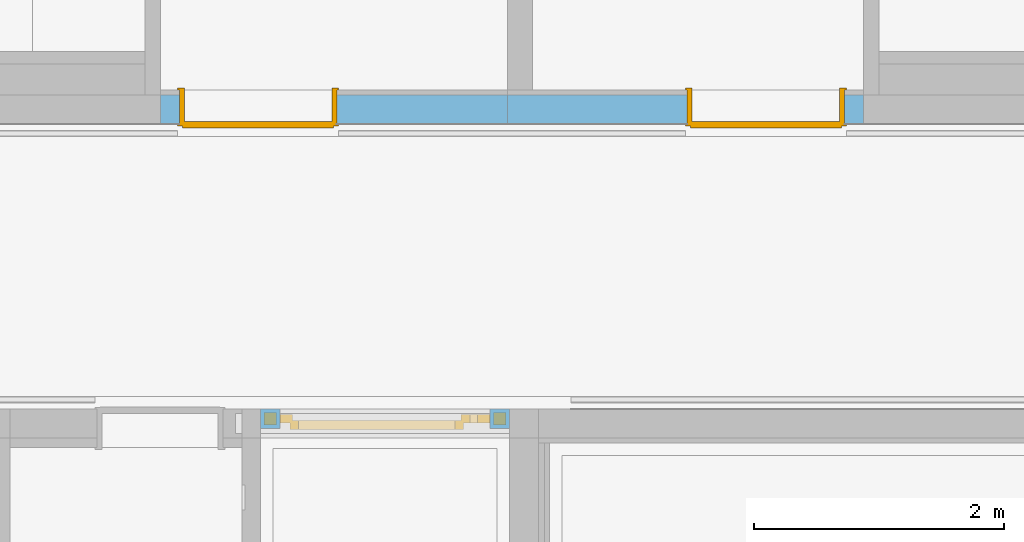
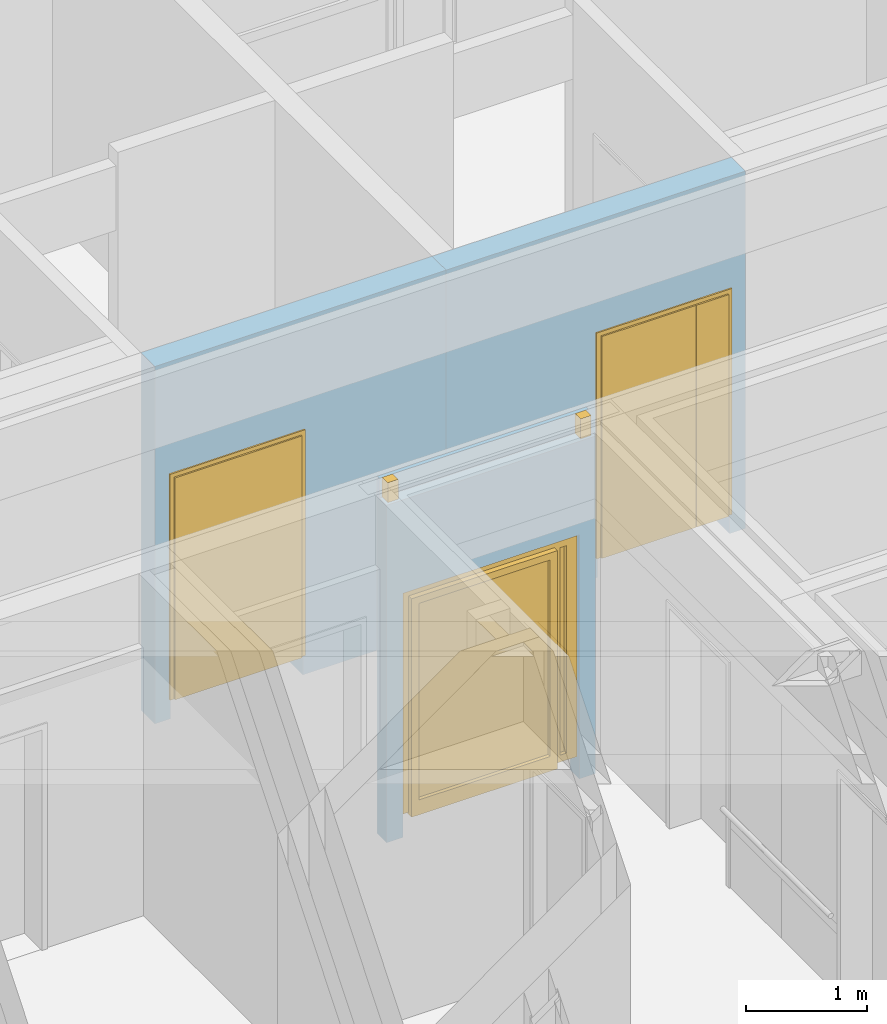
# One storey, part 81 of 207: 3 doors, 3 openings, plus 3 elements that do not belong to this part.
"""IFC4 building model written with IfcOpenShell, lengths in metres."""

from ifc_helpers import new_model, entity, si_unit, converted_unit, derived_unit, frame, frame_2d, origin, origin_with_axes, place, context, subcontext, project, spatial, polyline, rectangle, outline, extrude, clip, bounded_halfspace, closed_shell, open_shell, faceted_brep, surface_model, source, transform, mapped, material, type_object, element, fill, save


model = new_model("IFC4")

# Units and contexts
model_context = context("Model", 3, precision=1e-05, world=origin())
body_context = subcontext(model_context, "Body", "Model", "MODEL_VIEW")
ifc_project = project(units=[si_unit("LENGTHUNIT", "METRE"), si_unit("AREAUNIT", "SQUARE_METRE"), si_unit("VOLUMEUNIT", "CUBIC_METRE"), si_unit("MASSUNIT", "GRAM", prefix="KILO"), converted_unit("PLANEANGLEUNIT", "DEGREE", entity("IfcPlaneAngleMeasure", 0.0174532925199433), si_unit("PLANEANGLEUNIT", "RADIAN"), dimensions=[0, 0, 0, 0, 0, 0, 0]), derived_unit("THERMALTRANSMITTANCEUNIT", [(si_unit("POWERUNIT", "WATT"), 1), (si_unit("THERMODYNAMICTEMPERATUREUNIT", "KELVIN"), -1), (si_unit("LENGTHUNIT", "METRE"), -2)]), derived_unit("VOLUMETRICFLOWRATEUNIT", [(si_unit("LENGTHUNIT", "METRE"), 3), (converted_unit("TIMEUNIT", "hour", entity("IfcTimeMeasure", 3600.0), si_unit("TIMEUNIT", "SECOND"), dimensions=[0, 0, 1, 0, 0, 0, 0]), -1), (si_unit("LENGTHUNIT", "METRE"), -1)])], contexts=[model_context])

# Site, building, storey
site_placement = place(None, origin())
site = spatial("IfcSite", under=ifc_project, at=site_placement, Name="Psychiatrie Neubau Wunstorf", CompositionType="ELEMENT")
building_placement = place(site_placement, origin())
building = spatial("IfcBuilding", under=site, at=building_placement, Name="Neubau H2 Stationsgebäude", CompositionType="ELEMENT")
storey_placement = place(building_placement, frame((0.0, 0.0, -0.2)))
storey = spatial("IfcBuildingStorey", under=building, at=storey_placement, Name="H2 Ebene 0", CompositionType="ELEMENT", Elevation=-0.2)

# Wall, opening, door
ifc_material_1 = material(Name="WI-HW 60")
wall_1_placement = place(storey_placement, frame((9.9, 24.1175, 0.0), z_axis=(0.0, 0.0, 1.0), x_axis=(1.0, 2.55296758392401e-15, 0.0)))
wall_1 = element("IfcWall", 1, at=wall_1_placement, inside=storey, material=ifc_material_1, context=body_context, shape_type="SweptSolid", body=[
    extrude(rectangle(XDim=2.85, YDim=0.232, at=frame_2d((1.425, 0.116), x_axis=(1.0, 0.0))), origin_with_axes(), (0.0, 0.0, 1.0), 3.6),
])
opening_1_placement = place(wall_1_placement, frame((1.44, 0.0, 0.0), z_axis=(2.940176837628e-15, 1.0, 0.0), x_axis=(0.0, 0.0, 1.0)))
opening_1 = element("IfcOpeningElement", 2, at=opening_1_placement, cuts=wall_1, Name="Türöffnung", ObjectType="Opening", context=body_context, shape_type="SweptSolid", body=[
    extrude(outline(polyline([(2.46, 1.26), (2.46, 0.0), (0.0, 0.0), (0.0, 1.26), (2.46, 1.26)])), origin_with_axes(), (0.0, 0.0, 1.0), 0.232),
])
ifc_material_2 = material(Name="TI-2F-UZ-D")
door_type_1 = type_object("IfcDoorType", Name="SMT", OperationType="DOUBLE_DOOR_SINGLE_SWING", ParameterTakesPrecedence=False, PredefinedType="DOOR")
shared_shape_1 = source(origin_with_axes(), body_context, "Body", "Brep", [
    faceted_brep([(1.26, -0.015, 2.46), (1.26, -0.015, 0.2), (1.22, -0.015, 0.2), (1.22, -0.015, 2.46), (1.26, 0.287, 0.2), (1.26, 0.287, 2.46), (1.22, 0.287, 2.46), (1.22, 0.287, 0.2)], [[[0, 1, 2, 3]], [[4, 5, 6, 7]], [[1, 0, 5, 4]], [[2, 1, 4, 7]], [[3, 2, 7, 6]], [[0, 3, 6, 5]]], orient=[[False], [False], [False], [False], [False], [False]]),
    faceted_brep([(1.26, -0.015, 2.475), (1.275, -0.015, 2.475), (1.275, -0.015, 0.2), (1.26, -0.015, 0.2), (1.26, 0.0, 0.2), (1.275, 0.0, 0.2), (1.275, 0.0, 2.475), (1.26, 0.0, 2.475)], [[[0, 1, 2, 3]], [[4, 5, 6, 7]], [[3, 4, 7, 0]], [[2, 5, 4, 3]], [[1, 6, 5, 2]], [[0, 7, 6, 1]]], orient=[[False], [False], [False], [False], [False], [False]]),
    faceted_brep([(1.26, 0.272, 2.475), (1.275, 0.272, 2.475), (1.275, 0.272, 0.2), (1.26, 0.272, 0.2), (1.26, 0.287, 0.2), (1.275, 0.287, 0.2), (1.275, 0.287, 2.475), (1.26, 0.287, 2.475)], [[[0, 1, 2, 3]], [[4, 5, 6, 7]], [[3, 4, 7, 0]], [[2, 5, 4, 3]], [[1, 6, 5, 2]], [[0, 7, 6, 1]]], orient=[[False], [False], [False], [False], [False], [False]]),
    faceted_brep([(0.04, -0.0149999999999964, 2.46), (0.04, -0.0149999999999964, 0.2), (0.0, -0.0149999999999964, 0.2), (0.0, -0.0149999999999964, 2.46), (0.0400000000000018, 0.287000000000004, 0.2), (0.0400000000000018, 0.287000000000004, 2.46), (0.0, 0.287000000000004, 2.46), (0.0, 0.287000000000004, 0.2)], [[[0, 1, 2, 3]], [[4, 5, 6, 7]], [[1, 0, 5, 4]], [[2, 1, 4, 7]], [[3, 2, 7, 6]], [[0, 3, 6, 5]]], orient=[[False], [False], [False], [False], [False], [False]]),
    faceted_brep([(0.0, -0.0149999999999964, 2.475), (0.0, -0.0149999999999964, 0.2), (-0.015, -0.0149999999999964, 0.2), (-0.015, -0.0149999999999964, 2.475), (0.0, 0.0, 0.2), (0.0, 0.0, 2.475), (-0.015, 0.0, 2.475), (-0.015, 0.0, 0.2)], [[[0, 1, 2, 3]], [[4, 5, 6, 7]], [[1, 0, 5, 4]], [[2, 1, 4, 7]], [[3, 2, 7, 6]], [[0, 3, 6, 5]]], orient=[[False], [False], [False], [False], [False], [False]]),
    faceted_brep([(0.0, 0.272000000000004, 2.475), (0.0, 0.272000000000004, 0.2), (-0.0149999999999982, 0.272000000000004, 0.2), (-0.0149999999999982, 0.272000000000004, 2.475), (0.0, 0.287000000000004, 0.2), (0.0, 0.287000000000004, 2.475), (-0.0149999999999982, 0.287000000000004, 2.475), (-0.0149999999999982, 0.287000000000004, 0.2)], [[[0, 1, 2, 3]], [[4, 5, 6, 7]], [[1, 0, 5, 4]], [[2, 1, 4, 7]], [[3, 2, 7, 6]], [[0, 3, 6, 5]]], orient=[[False], [False], [False], [False], [False], [False]]),
    faceted_brep([(1.22, -0.015, 2.46), (1.22, -0.015, 2.42), (0.04, -0.0149999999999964, 2.42), (0.04, -0.0149999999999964, 2.46), (1.22, 0.287, 2.42), (1.22, 0.287, 2.46), (0.0400000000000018, 0.287000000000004, 2.46), (0.0400000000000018, 0.287000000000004, 2.42)], [[[0, 1, 2, 3]], [[4, 5, 6, 7]], [[1, 0, 5, 4]], [[2, 1, 4, 7]], [[3, 2, 7, 6]], [[0, 3, 6, 5]]], orient=[[False], [False], [False], [False], [False], [False]]),
    faceted_brep([(1.26, -0.015, 2.475), (1.26, -0.015, 2.46), (0.0, -0.0149999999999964, 2.46), (0.0, -0.0149999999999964, 2.475), (1.26, 0.0, 2.46), (1.26, 0.0, 2.475), (0.0, 0.0, 2.475), (0.0, 0.0, 2.46)], [[[0, 1, 2, 3]], [[4, 5, 6, 7]], [[1, 0, 5, 4]], [[2, 1, 4, 7]], [[3, 2, 7, 6]], [[0, 3, 6, 5]]], orient=[[False], [False], [False], [False], [False], [False]]),
    faceted_brep([(1.26, 0.272, 2.475), (1.26, 0.272, 2.46), (0.0, 0.272000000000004, 2.46), (0.0, 0.272000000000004, 2.475), (1.26, 0.287, 2.46), (1.26, 0.287, 2.475), (0.0, 0.287000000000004, 2.475), (0.0, 0.287000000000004, 2.46)], [[[0, 1, 2, 3]], [[4, 5, 6, 7]], [[1, 0, 5, 4]], [[2, 1, 4, 7]], [[3, 2, 7, 6]], [[0, 3, 6, 5]]], orient=[[False], [False], [False], [False], [False], [False]]),
    faceted_brep([(1.235, 0.252, 2.435), (1.235, 0.252, 0.2), (0.335000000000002, 0.252000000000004, 0.2), (0.335000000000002, 0.252000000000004, 2.435), (1.235, 0.302, 0.2), (1.235, 0.302, 2.435), (0.335000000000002, 0.302000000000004, 2.435), (0.335000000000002, 0.302000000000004, 0.2)], [[[0, 1, 2, 3]], [[4, 5, 6, 7]], [[1, 0, 5, 4]], [[2, 1, 4, 7]], [[3, 2, 7, 6]], [[0, 3, 6, 5]]], orient=[[False], [False], [False], [False], [False], [False]]),
    faceted_brep([(0.334000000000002, 0.252000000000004, 2.435), (0.334000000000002, 0.252000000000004, 0.2), (0.0250000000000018, 0.252000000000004, 0.2), (0.0250000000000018, 0.252000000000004, 2.435), (0.334000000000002, 0.302000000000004, 0.2), (0.334000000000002, 0.302000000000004, 2.435), (0.0250000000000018, 0.302000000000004, 2.435), (0.0250000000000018, 0.302000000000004, 0.2)], [[[0, 1, 2, 3]], [[4, 5, 6, 7]], [[1, 0, 5, 4]], [[2, 1, 4, 7]], [[3, 2, 7, 6]], [[0, 3, 6, 5]]], orient=[[False], [False], [False], [False], [False], [False]]),
])
door_1_placement = place(opening_1_placement, frame((0.0, 1.26, 0.272000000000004), z_axis=(1.0, 0.0, 0.0), x_axis=(0.0, -1.0, -3.2744940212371e-15)))
door_1 = element("IfcDoor", 3, at=door_1_placement, inside=storey, type_object=door_type_1, material=ifc_material_2, Name="SMT", OverallHeight=2.46, OverallWidth=1.26, context=body_context, shape_type="MappedRepresentation", body=[
    mapped(shared_shape_1, transform((0.0, 0.0, 0.0), x_axis=(1.0, 0.0, 0.0), y_axis=(0.0, 1.0, 0.0), z_axis=(0.0, 0.0, 1.0), scale=1.0)),
])
fill(opening_1, door_1)

ifc_material_3 = material(Name="WI-HW 60")
wall_2_placement = place(storey_placement, frame((7.125, 24.1175, 0.0), z_axis=(0.0, 0.0, 1.0), x_axis=(1.0, 2.62196670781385e-15, 0.0)))
wall_2 = element("IfcWall", 4, at=wall_2_placement, inside=storey, material=ifc_material_3, context=body_context, shape_type="SweptSolid", body=[
    extrude(rectangle(XDim=2.775, YDim=0.232, at=frame_2d((1.3875, 0.116), x_axis=(1.0, 0.0))), origin_with_axes(), (0.0, 0.0, 1.0), 3.6),
])
opening_2_placement = place(wall_2_placement, frame((0.15, 0.0, 0.0), z_axis=(2.5726547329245e-15, 1.0, 0.0), x_axis=(0.0, 0.0, 1.0)))
opening_2 = element("IfcOpeningElement", 5, at=opening_2_placement, cuts=wall_2, Name="Türöffnung", ObjectType="Opening", context=body_context, shape_type="SweptSolid", body=[
    extrude(outline(polyline([(2.46, 1.26), (2.46, 0.0), (0.0, 0.0), (0.0, 1.26), (2.46, 1.26)])), origin_with_axes(), (0.0, 0.0, 1.0), 0.232),
])
ifc_material_4 = material(Name="TI-2F-UZ-D")
door_type_2 = type_object("IfcDoorType", Name="SMT", OperationType="DOUBLE_DOOR_SINGLE_SWING", ParameterTakesPrecedence=False, PredefinedType="DOOR")
shared_shape_2 = source(origin_with_axes(), body_context, "Body", "Brep", [
    faceted_brep([(0.0, -0.015, 2.46), (0.04, -0.015, 2.46), (0.04, -0.015, 0.2), (0.0, -0.015, 0.2), (0.0, 0.287000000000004, 0.2), (0.0400000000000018, 0.287000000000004, 0.2), (0.0400000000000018, 0.287000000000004, 2.46), (0.0, 0.287000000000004, 2.46)], [[[0, 1, 2, 3]], [[4, 5, 6, 7]], [[3, 4, 7, 0]], [[2, 5, 4, 3]], [[1, 6, 5, 2]], [[0, 7, 6, 1]]], orient=[[False], [False], [False], [False], [False], [False]]),
    faceted_brep([(0.0, -0.015, 2.475), (0.0, -0.015, 0.2), (-0.015, -0.015, 0.2), (-0.015, -0.015, 2.475), (0.0, 0.0, 0.2), (0.0, 0.0, 2.475), (-0.015, 0.0, 2.475), (-0.015, 0.0, 0.2)], [[[0, 1, 2, 3]], [[4, 5, 6, 7]], [[1, 0, 5, 4]], [[2, 1, 4, 7]], [[3, 2, 7, 6]], [[0, 3, 6, 5]]], orient=[[False], [False], [False], [False], [False], [False]]),
    faceted_brep([(0.0, 0.272000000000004, 2.475), (0.0, 0.272000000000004, 0.2), (-0.0149999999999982, 0.272000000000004, 0.2), (-0.0149999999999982, 0.272000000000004, 2.475), (0.0, 0.287000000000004, 0.2), (0.0, 0.287000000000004, 2.475), (-0.0149999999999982, 0.287000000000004, 2.475), (-0.0149999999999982, 0.287000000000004, 0.2)], [[[0, 1, 2, 3]], [[4, 5, 6, 7]], [[1, 0, 5, 4]], [[2, 1, 4, 7]], [[3, 2, 7, 6]], [[0, 3, 6, 5]]], orient=[[False], [False], [False], [False], [False], [False]]),
    faceted_brep([(1.22, -0.0150000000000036, 2.46), (1.26, -0.0150000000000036, 2.46), (1.26, -0.0150000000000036, 0.2), (1.22, -0.0150000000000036, 0.2), (1.22, 0.287, 0.2), (1.26, 0.287, 0.2), (1.26, 0.287, 2.46), (1.22, 0.287, 2.46)], [[[0, 1, 2, 3]], [[4, 5, 6, 7]], [[3, 4, 7, 0]], [[2, 5, 4, 3]], [[1, 6, 5, 2]], [[0, 7, 6, 1]]], orient=[[False], [False], [False], [False], [False], [False]]),
    faceted_brep([(1.26, -0.0150000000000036, 2.475), (1.275, -0.0150000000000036, 2.475), (1.275, -0.0150000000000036, 0.2), (1.26, -0.0150000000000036, 0.2), (1.26, 0.0, 0.2), (1.275, 0.0, 0.2), (1.275, 0.0, 2.475), (1.26, 0.0, 2.475)], [[[0, 1, 2, 3]], [[4, 5, 6, 7]], [[3, 4, 7, 0]], [[2, 5, 4, 3]], [[1, 6, 5, 2]], [[0, 7, 6, 1]]], orient=[[False], [False], [False], [False], [False], [False]]),
    faceted_brep([(1.26, 0.272, 2.475), (1.275, 0.272, 2.475), (1.275, 0.272, 0.2), (1.26, 0.272, 0.2), (1.26, 0.287, 0.2), (1.275, 0.287, 0.2), (1.275, 0.287, 2.475), (1.26, 0.287, 2.475)], [[[0, 1, 2, 3]], [[4, 5, 6, 7]], [[3, 4, 7, 0]], [[2, 5, 4, 3]], [[1, 6, 5, 2]], [[0, 7, 6, 1]]], orient=[[False], [False], [False], [False], [False], [False]]),
    faceted_brep([(0.04, -0.015, 2.46), (1.22, -0.0150000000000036, 2.46), (1.22, -0.0150000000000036, 2.42), (0.04, -0.015, 2.42), (0.0400000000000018, 0.287000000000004, 2.42), (1.22, 0.287, 2.42), (1.22, 0.287, 2.46), (0.0400000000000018, 0.287000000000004, 2.46)], [[[0, 1, 2, 3]], [[4, 5, 6, 7]], [[3, 4, 7, 0]], [[2, 5, 4, 3]], [[1, 6, 5, 2]], [[0, 7, 6, 1]]], orient=[[False], [False], [False], [False], [False], [False]]),
    faceted_brep([(0.0, -0.015, 2.475), (1.26, -0.0150000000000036, 2.475), (1.26, -0.0150000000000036, 2.46), (0.0, -0.015, 2.46), (0.0, 0.0, 2.46), (1.26, 0.0, 2.46), (1.26, 0.0, 2.475), (0.0, 0.0, 2.475)], [[[0, 1, 2, 3]], [[4, 5, 6, 7]], [[3, 4, 7, 0]], [[2, 5, 4, 3]], [[1, 6, 5, 2]], [[0, 7, 6, 1]]], orient=[[False], [False], [False], [False], [False], [False]]),
    faceted_brep([(0.0, 0.272000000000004, 2.475), (1.26, 0.272, 2.475), (1.26, 0.272, 2.46), (0.0, 0.272000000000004, 2.46), (0.0, 0.287000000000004, 2.46), (1.26, 0.287, 2.46), (1.26, 0.287, 2.475), (0.0, 0.287000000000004, 2.475)], [[[0, 1, 2, 3]], [[4, 5, 6, 7]], [[3, 4, 7, 0]], [[2, 5, 4, 3]], [[1, 6, 5, 2]], [[0, 7, 6, 1]]], orient=[[False], [False], [False], [False], [False], [False]]),
    faceted_brep([(0.0250000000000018, 0.252000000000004, 2.435), (0.925000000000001, 0.252, 2.435), (0.925000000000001, 0.252, 0.2), (0.0250000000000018, 0.252000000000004, 0.2), (0.0250000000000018, 0.302000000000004, 0.2), (0.925000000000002, 0.302, 0.2), (0.925000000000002, 0.302, 2.435), (0.0250000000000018, 0.302000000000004, 2.435)], [[[0, 1, 2, 3]], [[4, 5, 6, 7]], [[3, 4, 7, 0]], [[2, 5, 4, 3]], [[1, 6, 5, 2]], [[0, 7, 6, 1]]], orient=[[False], [False], [False], [False], [False], [False]]),
    faceted_brep([(0.926000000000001, 0.252, 2.435), (1.235, 0.252, 2.435), (1.235, 0.252, 0.2), (0.926000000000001, 0.252, 0.2), (0.926000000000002, 0.302, 0.2), (1.235, 0.302, 0.2), (1.235, 0.302, 2.435), (0.926000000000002, 0.302, 2.435)], [[[0, 1, 2, 3]], [[4, 5, 6, 7]], [[3, 4, 7, 0]], [[2, 5, 4, 3]], [[1, 6, 5, 2]], [[0, 7, 6, 1]]], orient=[[False], [False], [False], [False], [False], [False]]),
])
door_2_placement = place(opening_2_placement, frame((0.0, 1.26, 0.272000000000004), z_axis=(1.0, 0.0, 0.0), x_axis=(0.0, -1.0, -2.83797279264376e-15)))
door_2 = element("IfcDoor", 6, at=door_2_placement, inside=storey, type_object=door_type_2, material=ifc_material_4, Name="SMT", OverallHeight=2.46, OverallWidth=1.26, context=body_context, shape_type="MappedRepresentation", body=[
    mapped(shared_shape_2, transform((0.0, 0.0, 0.0), x_axis=(1.0, 0.0, 0.0), y_axis=(0.0, 1.0, 0.0), z_axis=(0.0, 0.0, 1.0), scale=1.0)),
])
fill(opening_2, door_2)

ifc_material_5 = material(Name="WI-LW 60")
wall_3_placement = place(storey_placement, frame((9.9175, 21.836, 0.0), z_axis=(0.0, 0.0, 1.0), x_axis=(-1.0, 0.0, 0.0)))
wall_3 = element("IfcWall", 7, at=wall_3_placement, inside=storey, material=ifc_material_5, context=body_context, shape_type="Clipping", body=[
    clip(extrude(rectangle(XDim=1.9925, YDim=0.155, at=frame_2d((0.99625, 0.0775), x_axis=(1.0, 0.0))), origin_with_axes(), (0.0, 0.0, 1.0), 3.6), bounded_halfspace(frame((0.99625, 0.0955007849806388, 3.4), z_axis=(0.0, 0.0, -1.0), x_axis=(1.0, -5.47750886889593e-15, 0.0)), True, origin_with_axes(), polyline([(0.0, 0.036001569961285), (1.9925, 0.0360015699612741), (1.9925, 0.155), (0.0, 0.155), (0.0, 0.036001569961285)]))),
])
opening_3_placement = place(wall_3_placement, frame((1.8375, 0.155, 0.0), z_axis=(0.0, -1.0, 0.0), x_axis=(0.0, 0.0, 1.0)))
opening_3 = element("IfcOpeningElement", 8, at=opening_3_placement, cuts=wall_3, Name="Türöffnung", ObjectType="Opening", context=body_context, shape_type="SweptSolid", body=[
    extrude(outline(polyline([(2.46, 1.6825), (2.46, 0.0), (0.0, 0.0), (0.0, 1.6825), (2.46, 1.6825)])), origin_with_axes(), (0.0, 0.0, 1.0), 0.155),
])
ifc_material_6 = material(Name="TI-2F-AG-D-O")
door_type_3 = type_object("IfcDoorType", Name="SMT", OperationType="NOTDEFINED", ParameterTakesPrecedence=False, PredefinedType="DOOR")
shared_shape_3 = source(origin_with_axes(), body_context, "Body", "Brep", [
    faceted_brep([(-0.1275, 0.1275, 0.0), (-0.1275, 0.0275, 0.0), (-0.0275, 0.0275, 0.0), (-0.0275, 0.1275, 0.0), (-0.1275, 0.0275, 3.6), (-0.1275, 0.1275, 3.6), (-0.0275, 0.1275, 3.6), (-0.0275, 0.0275, 3.6)], [[[0, 1, 2, 3]], [[4, 5, 6, 7]], [[1, 0, 5, 4]], [[2, 1, 4, 7]], [[3, 2, 7, 6]], [[0, 3, 6, 5]]], orient=[[False], [False], [False], [False], [False], [False]]),
    faceted_brep([(1.71, 0.1275, 0.0), (1.71, 0.0275, 0.0), (1.81, 0.0275, 0.0), (1.81, 0.1275, 0.0), (1.71, 0.0275, 3.6), (1.71, 0.1275, 3.6), (1.81, 0.1275, 3.6), (1.81, 0.0275, 3.6)], [[[0, 1, 2, 3]], [[4, 5, 6, 7]], [[1, 0, 5, 4]], [[2, 1, 4, 7]], [[3, 2, 7, 6]], [[0, 3, 6, 5]]], orient=[[False], [False], [False], [False], [False], [False]]),
    faceted_brep([(-0.0275, 0.1275, 2.4875), (-0.0275, 0.0275, 2.4875), (1.71, 0.0275, 2.4875), (1.71, 0.1275, 2.4875), (-0.0275, 0.0275, 2.5875), (-0.0275, 0.1275, 2.5875), (1.71, 0.1275, 2.5875), (1.71, 0.0275, 2.5875)], [[[0, 1, 2, 3]], [[4, 5, 6, 7]], [[1, 0, 5, 4]], [[2, 1, 4, 7]], [[3, 2, 7, 6]], [[0, 3, 6, 5]]], orient=[[False], [False], [False], [False], [False], [False]]),
])
shared_shape_4 = source(origin_with_axes(), body_context, "Body", "SurfaceModel", [
    surface_model("IfcShellBasedSurfaceModel", [(1.6825, 0.1125, 2.46), (1.5825, 0.1125, 2.46), (1.5825, 0.1125, 0.2), (1.6825, 0.1125, 0.2), (1.6825, 0.0425, 0.2), (1.5825, 0.0425, 0.2), (1.5825, 0.0425, 2.46), (1.6825, 0.0425, 2.46)], [closed_shell([[[0, 1, 2, 3]], [[4, 5, 6, 7]], [[3, 4, 7, 0]], [[2, 5, 4, 3]], [[1, 6, 5, 2]], [[0, 7, 6, 1]]], orient=[[False], [False], [False], [False], [False], [False]])]),
    surface_model("IfcShellBasedSurfaceModel", [(0.1, 0.1125, 2.46), (0.0, 0.1125, 2.46), (0.0, 0.1125, 0.2), (0.1, 0.1125, 0.2), (0.1, 0.0425, 0.2), (0.0, 0.0425, 0.2), (0.0, 0.0425, 2.46), (0.1, 0.0425, 2.46)], [closed_shell([[[0, 1, 2, 3]], [[4, 5, 6, 7]], [[3, 4, 7, 0]], [[2, 5, 4, 3]], [[1, 6, 5, 2]], [[0, 7, 6, 1]]], orient=[[False], [False], [False], [False], [False], [False]])]),
    surface_model("IfcShellBasedSurfaceModel", [(1.5825, 0.1125, 2.46), (0.1, 0.1125, 2.46), (0.1, 0.1125, 2.36), (1.5825, 0.1125, 2.36), (1.5825, 0.0425, 2.36), (0.1, 0.0425, 2.36), (0.1, 0.0425, 2.46), (1.5825, 0.0425, 2.46)], [closed_shell([[[0, 1, 2, 3]], [[4, 5, 6, 7]], [[3, 4, 7, 0]], [[2, 5, 4, 3]], [[1, 6, 5, 2]], [[0, 7, 6, 1]]], orient=[[False], [False], [False], [False], [False], [False]])]),
    surface_model("IfcShellBasedSurfaceModel", [(1.52, 0.1125, 2.36), (1.45, 0.1125, 2.36), (1.45, 0.1125, 0.2), (1.52, 0.1125, 0.2), (1.52, 0.0425, 0.2), (1.45, 0.0425, 0.2), (1.45, 0.0425, 2.36), (1.52, 0.0425, 2.36)], [closed_shell([[[0, 1, 2, 3]], [[4, 5, 6, 7]], [[3, 4, 7, 0]], [[2, 5, 4, 3]], [[1, 6, 5, 2]], [[0, 7, 6, 1]]], orient=[[False], [False], [False], [False], [False], [False]])]),
    surface_model("IfcShellBasedSurfaceModel", [(1.5825, 0.1125, 0.27), (1.52, 0.1125, 0.27), (1.52, 0.1125, 0.2), (1.5825, 0.1125, 0.2), (1.5825, 0.0425, 0.2), (1.52, 0.0425, 0.2), (1.52, 0.0425, 0.27), (1.5825, 0.0425, 0.27)], [closed_shell([[[0, 1, 2, 3]], [[4, 5, 6, 7]], [[3, 4, 7, 0]], [[2, 5, 4, 3]], [[1, 6, 5, 2]], [[0, 7, 6, 1]]], orient=[[False], [False], [False], [False], [False], [False]])]),
    surface_model("IfcShellBasedSurfaceModel", [(1.47, 0.0625, 2.38), (1.4, 0.0625, 2.38), (1.4, 0.0625, 0.18), (1.47, 0.0625, 0.18), (1.47, -0.0075, 0.18), (1.4, -0.0075, 0.18), (1.4, -0.0075, 2.38), (1.47, -0.0075, 2.38)], [closed_shell([[[0, 1, 2, 3]], [[4, 5, 6, 7]], [[3, 4, 7, 0]], [[2, 5, 4, 3]], [[1, 6, 5, 2]], [[0, 7, 6, 1]]], orient=[[False], [False], [False], [False], [False], [False]])]),
    surface_model("IfcShellBasedSurfaceModel", [(0.149999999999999, 0.0625, 2.38), (0.08, 0.0625, 2.38), (0.08, 0.0625, 0.18), (0.149999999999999, 0.0625, 0.18), (0.149999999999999, -0.0075, 0.18), (0.08, -0.0075, 0.18), (0.08, -0.0075, 2.38), (0.149999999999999, -0.0075, 2.38)], [closed_shell([[[0, 1, 2, 3]], [[4, 5, 6, 7]], [[3, 4, 7, 0]], [[2, 5, 4, 3]], [[1, 6, 5, 2]], [[0, 7, 6, 1]]], orient=[[False], [False], [False], [False], [False], [False]])]),
    surface_model("IfcShellBasedSurfaceModel", [(1.4, 0.0625, 0.33), (0.149999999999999, 0.0625, 0.33), (0.149999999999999, 0.0625, 0.18), (1.4, 0.0625, 0.18), (1.4, -0.0075, 0.18), (0.149999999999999, -0.0075, 0.18), (0.149999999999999, -0.0075, 0.33), (1.4, -0.0075, 0.33)], [closed_shell([[[0, 1, 2, 3]], [[4, 5, 6, 7]], [[3, 4, 7, 0]], [[2, 5, 4, 3]], [[1, 6, 5, 2]], [[0, 7, 6, 1]]], orient=[[False], [False], [False], [False], [False], [False]])]),
    surface_model("IfcShellBasedSurfaceModel", [(1.4, 0.0625, 2.38), (0.149999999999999, 0.0625, 2.38), (0.149999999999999, 0.0625, 2.31), (1.4, 0.0625, 2.31), (1.4, -0.0075, 2.31), (0.149999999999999, -0.0075, 2.31), (0.149999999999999, -0.0075, 2.38), (1.4, -0.0075, 2.38)], [closed_shell([[[0, 1, 2, 3]], [[4, 5, 6, 7]], [[3, 4, 7, 0]], [[2, 5, 4, 3]], [[1, 6, 5, 2]], [[0, 7, 6, 1]]], orient=[[False], [False], [False], [False], [False], [False]])]),
    surface_model("IfcShellBasedSurfaceModel", [(1.4, 0.0275, 0.33), (1.4, 0.0275, 2.31), (0.149999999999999, 0.0275, 2.31), (0.149999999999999, 0.0275, 0.33)], [open_shell([[[0, 1, 2, 3]]], orient=[[False]])]),
    surface_model("IfcShellBasedSurfaceModel", [(1.5825, 0.0775, 0.27), (1.5825, 0.0775, 2.36), (1.52, 0.0775, 2.36), (1.52, 0.0775, 0.27)], [open_shell([[[0, 1, 2, 3]]], orient=[[False]])]),
])
door_3_placement = place(opening_3_placement, frame((0.0, 0.0, 0.0), z_axis=(1.0, 0.0, 0.0), x_axis=(0.0, 1.0, 0.0)))
door_3 = element("IfcDoor", 9, at=door_3_placement, inside=storey, type_object=door_type_3, material=ifc_material_6, Name="SMT", OverallHeight=2.46, OverallWidth=1.6825, context=body_context, shape_type="MappedRepresentation", body=[
    mapped(shared_shape_3, transform((0.0, 0.0, 0.0), x_axis=(1.0, 0.0, 0.0), y_axis=(0.0, 1.0, 0.0), z_axis=(0.0, 0.0, 1.0), scale=1.0)),
    mapped(shared_shape_4, transform((0.0, 0.0, 0.0), x_axis=(1.0, 0.0, 0.0), y_axis=(0.0, 1.0, 0.0), z_axis=(0.0, 0.0, 1.0), scale=1.0)),
])
fill(opening_3, door_3)

save(model, "model.ifc")
